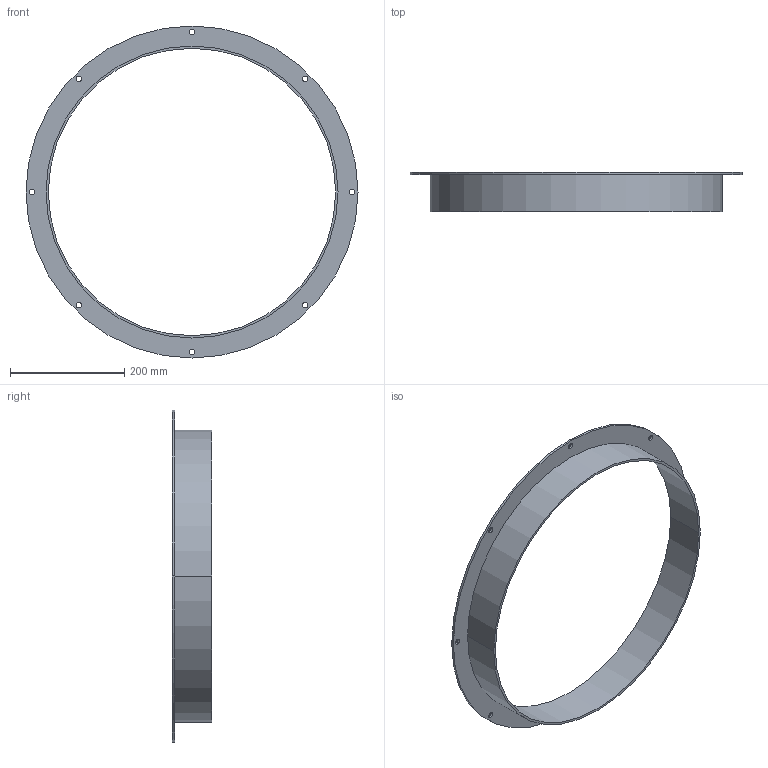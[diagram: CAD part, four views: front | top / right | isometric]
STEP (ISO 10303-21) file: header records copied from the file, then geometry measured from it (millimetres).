
FILE_DESCRIPTION(('STEP AP214'),'1');
FILE_NAME('accessory_5136844700.stp','2017-10-09T07:16:00',('TraceParts'),('TraceParts S.A.'),'Spatial InterOp 3D',' ',' ');
FILE_SCHEMA(('automotive_design'));
Length unit declared in the file: millimetre
Products named in the file (1): accessory_5136844700
Bounding box: 581 x 69 x 581 mm (x, y, z)
Volume: 677239.4 mm3; surface area: 353247 mm2
Topology: 1 solids, 1 shells, 25 faces, 66 edges, 44 vertices
Faces by surface type: cylinder 22, plane 3
Entity records: 1056 total; most frequent: DIRECTION 162, CARTESIAN_POINT 136, ORIENTED_EDGE 132, AXIS2_PLACEMENT_3D 70, EDGE_CURVE 66, EDGE_LOOP 44, VERTEX_POINT 44, CIRCLE 44
